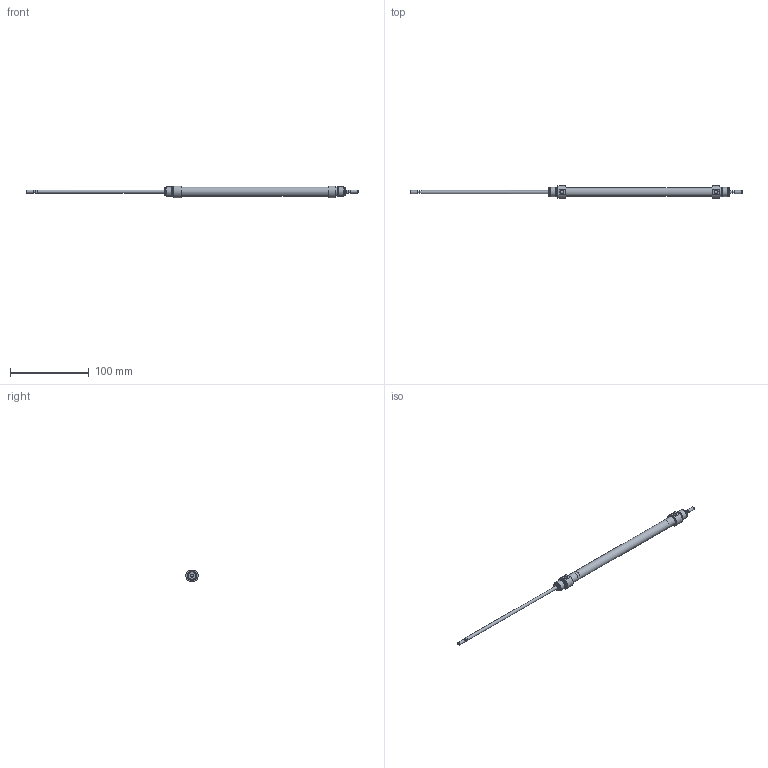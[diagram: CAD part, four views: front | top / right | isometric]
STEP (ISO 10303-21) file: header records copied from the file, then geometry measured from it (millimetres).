
FILE_DESCRIPTION( ( 'STEP AP203' ), '1' );
FILE_NAME( '//expscmdclustefs.cadenas.external/client_exchange/iodir/jobs/output/wkb68273285_no0/STEP/M101-010-0160--__0__2_03.stp', ' ', ( ' ' ), ( ' ' ), 'PSStep 15.0.47', 'PARTsolutions', ' ' );
FILE_SCHEMA( ( 'CONFIG_CONTROL_DESIGN' ) );
Length unit declared in the file: millimetre
Products named in the file (3): M101-010-0160-- [0]; HI_M101-010-0160---[0]-z; HI_M101-010-0160---[0]-k
Assembly tree (2 placements, depth 2):
  M101-010-0160-- [0]
    HI_M101-010-0160---[0]-z
    HI_M101-010-0160---[0]-k
Bounding box: 422 x 15.77 x 14.87 mm (x, y, z)
Volume: 16709.6 mm3; surface area: 20764 mm2
Topology: 2 solids, 2 shells, 71 faces, 145 edges, 88 vertices
Faces by surface type: plane 32, cylinder 23, cone 14, torus 2
Full cylindrical faces by diameter (mm): 3.141 x2, 4 x6, 4.134 x2, 10 x2, 10.466 x4, 11.3 x1, 12 x4
Entity records: 1838 total; most frequent: CARTESIAN_POINT 358, DIRECTION 312, ORIENTED_EDGE 212, AXIS2_PLACEMENT_3D 140, EDGE_LOOP 120, EDGE_CURVE 106, FACE_OUTER_BOUND 94, VERTEX_POINT 82
